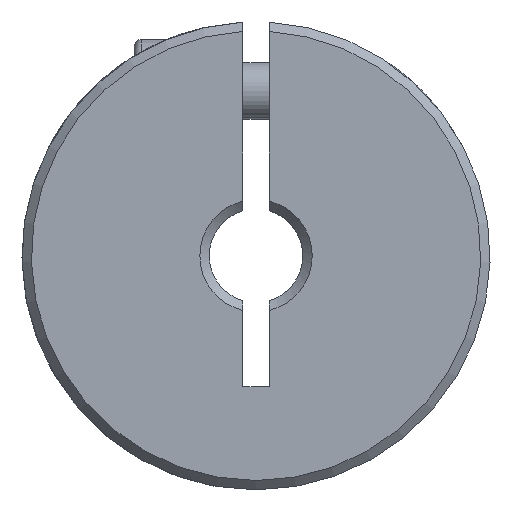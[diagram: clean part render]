
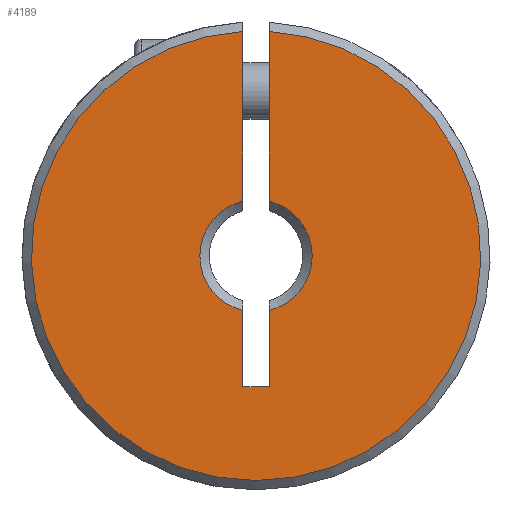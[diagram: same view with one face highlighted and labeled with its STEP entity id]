
A CAD part, front view. The second image highlights one B-rep face of the part: STEP entity #4189.
In plain terms, the highlighted planar face has unit normal (0, -1, 0).
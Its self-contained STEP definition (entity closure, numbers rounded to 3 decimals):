
#15 = VERTEX_POINT ( 'NONE', #3209 ) ;
#30 = ORIENTED_EDGE ( 'NONE', *, *, #3567, .F. ) ;
#72 = DIRECTION ( 'NONE',  ( 0., 0., 1. ) ) ;
#174 = ORIENTED_EDGE ( 'NONE', *, *, #5257, .T. ) ;
#176 = VERTEX_POINT ( 'NONE', #4162 ) ;
#267 = CARTESIAN_POINT ( 'NONE',  ( -0.7, 0.25, -2.917 ) ) ;
#277 = VERTEX_POINT ( 'NONE', #3477 ) ;
#291 = CARTESIAN_POINT ( 'NONE',  ( 0.7, 0.25, -7. ) ) ;
#432 = LINE ( 'NONE', #2073, #5119 ) ;
#541 = EDGE_CURVE ( 'NONE', #277, #665, #432, .T. ) ;
#568 = DIRECTION ( 'NONE',  ( 0., 0., -1. ) ) ;
#665 = VERTEX_POINT ( 'NONE', #4161 ) ;
#797 = EDGE_CURVE ( 'NONE', #3418, #15, #2404, .T. ) ;
#938 = CARTESIAN_POINT ( 'NONE',  ( -0.7, 0.25, -7. ) ) ;
#990 = ORIENTED_EDGE ( 'NONE', *, *, #3692, .F. ) ;
#991 = CARTESIAN_POINT ( 'NONE',  ( -0.7, 0.25, 2.917 ) ) ;
#1022 = CARTESIAN_POINT ( 'NONE',  ( 12.5, 0.25, -50. ) ) ;
#1078 = EDGE_CURVE ( 'NONE', #4641, #2438, #3586, .T. ) ;
#1222 = AXIS2_PLACEMENT_3D ( 'NONE', #1022, #5185, #3173 ) ;
#1333 = CARTESIAN_POINT ( 'NONE',  ( 0., 0.25, 0. ) ) ;
#1364 = VECTOR ( 'NONE', #5010, 1000. ) ;
#1367 = DIRECTION ( 'NONE',  ( 0., 0., 1. ) ) ;
#1867 = PLANE ( 'NONE',  #1222 ) ;
#1906 = AXIS2_PLACEMENT_3D ( 'NONE', #2178, #2619, #1367 ) ;
#1914 = FACE_OUTER_BOUND ( 'NONE', #4262, .T. ) ;
#1990 = CIRCLE ( 'NONE', #1906, 12. ) ;
#2073 = CARTESIAN_POINT ( 'NONE',  ( 0.7, 0.25, -7. ) ) ;
#2079 = CARTESIAN_POINT ( 'NONE',  ( 0.7, 0.25, -7. ) ) ;
#2178 = CARTESIAN_POINT ( 'NONE',  ( 0., 0.25, 0. ) ) ;
#2326 = VECTOR ( 'NONE', #568, 1000. ) ;
#2404 = LINE ( 'NONE', #2079, #3055 ) ;
#2438 = VERTEX_POINT ( 'NONE', #991 ) ;
#2491 = VERTEX_POINT ( 'NONE', #938 ) ;
#2493 = ORIENTED_EDGE ( 'NONE', *, *, #1078, .T. ) ;
#2619 = DIRECTION ( 'NONE',  ( 0., -1., 0. ) ) ;
#2759 = DIRECTION ( 'NONE',  ( 0., 1., 0. ) ) ;
#2778 = DIRECTION ( 'NONE',  ( 1., 0., 0. ) ) ;
#3055 = VECTOR ( 'NONE', #3732, 1000. ) ;
#3173 = DIRECTION ( 'NONE',  ( 0., 0., 1. ) ) ;
#3209 = CARTESIAN_POINT ( 'NONE',  ( 0.7, 0.25, 11.98 ) ) ;
#3418 = VERTEX_POINT ( 'NONE', #3545 ) ;
#3477 = CARTESIAN_POINT ( 'NONE',  ( 0.7, 0.25, -7. ) ) ;
#3545 = CARTESIAN_POINT ( 'NONE',  ( 0.7, 0.25, 2.917 ) ) ;
#3567 = EDGE_CURVE ( 'NONE', #4641, #2491, #4272, .T. ) ;
#3586 = CIRCLE ( 'NONE', #4525, 3. ) ;
#3588 = LINE ( 'NONE', #291, #4665 ) ;
#3606 = CIRCLE ( 'NONE', #4645, 3. ) ;
#3692 = EDGE_CURVE ( 'NONE', #2491, #277, #3588, .T. ) ;
#3732 = DIRECTION ( 'NONE',  ( 0., 0., 1. ) ) ;
#3735 = CARTESIAN_POINT ( 'NONE',  ( -0.7, 0.25, -7. ) ) ;
#3824 = ORIENTED_EDGE ( 'NONE', *, *, #5323, .F. ) ;
#3941 = EDGE_CURVE ( 'NONE', #176, #15, #1990, .T. ) ;
#3947 = CARTESIAN_POINT ( 'NONE',  ( 0., 0.25, 0. ) ) ;
#3971 = DIRECTION ( 'NONE',  ( 0., 0., 1. ) ) ;
#4161 = CARTESIAN_POINT ( 'NONE',  ( 0.7, 0.25, -2.917 ) ) ;
#4162 = CARTESIAN_POINT ( 'NONE',  ( -0.7, 0.25, 11.98 ) ) ;
#4168 = DIRECTION ( 'NONE',  ( 0., 1., 0. ) ) ;
#4189 = ADVANCED_FACE ( 'NONE', ( #1914 ), #1867, .F. ) ;
#4258 = DIRECTION ( 'NONE',  ( 0., 0., 1. ) ) ;
#4262 = EDGE_LOOP ( 'NONE', ( #4740, #174, #5103, #990, #30, #2493, #3824, #4816 ) ) ;
#4272 = LINE ( 'NONE', #5082, #2326 ) ;
#4525 = AXIS2_PLACEMENT_3D ( 'NONE', #3947, #2759, #3971 ) ;
#4603 = LINE ( 'NONE', #3735, #1364 ) ;
#4641 = VERTEX_POINT ( 'NONE', #267 ) ;
#4645 = AXIS2_PLACEMENT_3D ( 'NONE', #1333, #4168, #4258 ) ;
#4665 = VECTOR ( 'NONE', #2778, 1000. ) ;
#4740 = ORIENTED_EDGE ( 'NONE', *, *, #797, .F. ) ;
#4816 = ORIENTED_EDGE ( 'NONE', *, *, #3941, .T. ) ;
#5010 = DIRECTION ( 'NONE',  ( 0., 0., -1. ) ) ;
#5082 = CARTESIAN_POINT ( 'NONE',  ( -0.7, 0.25, -7. ) ) ;
#5103 = ORIENTED_EDGE ( 'NONE', *, *, #541, .F. ) ;
#5119 = VECTOR ( 'NONE', #72, 1000. ) ;
#5185 = DIRECTION ( 'NONE',  ( 0., 1., 0. ) ) ;
#5257 = EDGE_CURVE ( 'NONE', #3418, #665, #3606, .T. ) ;
#5323 = EDGE_CURVE ( 'NONE', #176, #2438, #4603, .T. ) ;
